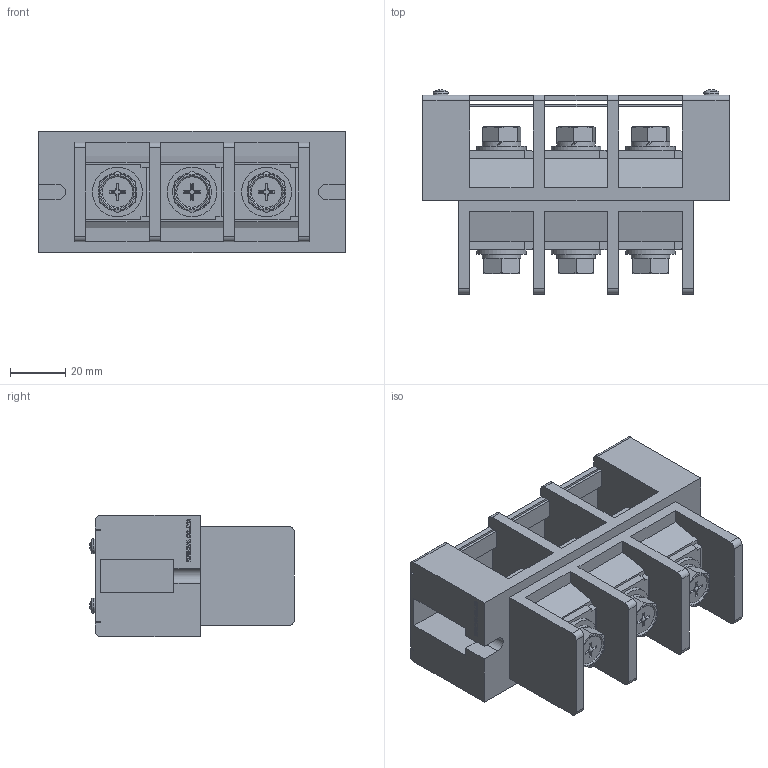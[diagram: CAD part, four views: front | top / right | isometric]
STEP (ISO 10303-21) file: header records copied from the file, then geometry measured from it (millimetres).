
FILE_DESCRIPTION(/* description */ ('Alibre Inc.'),/* implementation_level */ '2;1');
FILE_NAME(/* name */ 'export0',/* time_stamp */ '2016-04-05T18:34:39+09:00',/* author */ (''),/* organization */ (''),/* preprocessor_version */ 'ST-DEVELOPER v14',/* originating_system */ 'Alibre',/* authorisation */ '');
FILE_SCHEMA (('CONFIG_CONTROL_DESIGN'));
Length unit declared in the file: centimetre
Products named in the file (1): ID_1
Bounding box: 111 x 73.94 x 44 mm (x, y, z)
Volume: 137384.5 mm3; surface area: 58145.9 mm2
Topology: 2 solids, 4 shells, 751 faces, 2029 edges, 1314 vertices
Faces by surface type: plane 557, cone 80, cylinder 58, bspline 52, sphere 2, torus 2
Full cylindrical faces by diameter (mm): 3 x4, 5.5 x2, 8 x6, 18 x6
Entity records: 21531 total; most frequent: CARTESIAN_POINT 4449, ORIENTED_EDGE 3978, DIRECTION 2655, EDGE_CURVE 1989, VECTOR 1308, LINE 1308, VERTEX_POINT 1306, AXIS2_PLACEMENT_3D 915
